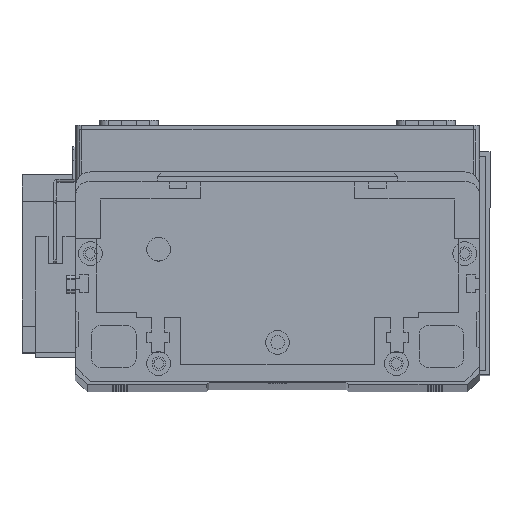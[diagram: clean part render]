
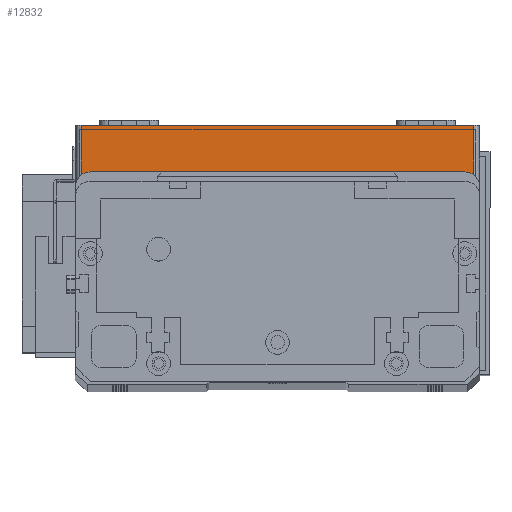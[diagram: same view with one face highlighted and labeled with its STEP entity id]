
A CAD part, top view. The second image highlights one B-rep face of the part: STEP entity #12832.
In plain terms, the highlighted planar face has unit normal (0, 0, 1) as drawn and (0, -1, 0) by its records, which use the part's own axes.
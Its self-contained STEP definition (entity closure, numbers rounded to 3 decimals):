
#98 = VERTEX_POINT ( 'NONE', #12766 ) ;
#1786 = LINE ( 'NONE', #26793, #25506 ) ;
#2894 = VECTOR ( 'NONE', #18010, 1000. ) ;
#3839 = VECTOR ( 'NONE', #8630, 1000. ) ;
#4364 = VERTEX_POINT ( 'NONE', #12758 ) ;
#4406 = EDGE_CURVE ( 'NONE', #4364, #98, #5279, .T. ) ;
#5279 = LINE ( 'NONE', #8840, #3839 ) ;
#6949 = CARTESIAN_POINT ( 'NONE',  ( 0., 0., 19.5 ) ) ;
#7287 = CARTESIAN_POINT ( 'NONE',  ( 134., 0., 19.5 ) ) ;
#8505 = AXIS2_PLACEMENT_3D ( 'NONE', #27341, #26561, #26503 ) ;
#8630 = DIRECTION ( 'NONE',  ( 0., 0., -1. ) ) ;
#8840 = CARTESIAN_POINT ( 'NONE',  ( 2., 0., 19.5 ) ) ;
#8865 = FACE_OUTER_BOUND ( 'NONE', #22061, .T. ) ;
#10323 = VERTEX_POINT ( 'NONE', #27790 ) ;
#12758 = CARTESIAN_POINT ( 'NONE',  ( 2., 0., 19.5 ) ) ;
#12766 = CARTESIAN_POINT ( 'NONE',  ( 2., 0., 0. ) ) ;
#12832 = ADVANCED_FACE ( 'NONE', ( #8865 ), #26653, .F. ) ;
#14177 = VERTEX_POINT ( 'NONE', #7287 ) ;
#15116 = LINE ( 'NONE', #20227, #2894 ) ;
#18010 = DIRECTION ( 'NONE',  ( 1., 0., 0. ) ) ;
#19329 = EDGE_CURVE ( 'NONE', #4364, #14177, #24091, .T. ) ;
#19418 = ORIENTED_EDGE ( 'NONE', *, *, #19329, .F. ) ;
#20227 = CARTESIAN_POINT ( 'NONE',  ( 0., 0., 0. ) ) ;
#20704 = EDGE_CURVE ( 'NONE', #98, #10323, #15116, .T. ) ;
#21126 = ORIENTED_EDGE ( 'NONE', *, *, #4406, .T. ) ;
#21825 = ORIENTED_EDGE ( 'NONE', *, *, #20704, .T. ) ;
#22061 = EDGE_LOOP ( 'NONE', ( #19418, #21126, #21825, #23558 ) ) ;
#23399 = VECTOR ( 'NONE', #25338, 1000. ) ;
#23558 = ORIENTED_EDGE ( 'NONE', *, *, #26509, .T. ) ;
#24091 = LINE ( 'NONE', #6949, #23399 ) ;
#25338 = DIRECTION ( 'NONE',  ( 1., 0., 0. ) ) ;
#25506 = VECTOR ( 'NONE', #29001, 1000. ) ;
#26503 = DIRECTION ( 'NONE',  ( 0., 0., 1. ) ) ;
#26509 = EDGE_CURVE ( 'NONE', #10323, #14177, #1786, .T. ) ;
#26561 = DIRECTION ( 'NONE',  ( 0., 1., 0. ) ) ;
#26653 = PLANE ( 'NONE',  #8505 ) ;
#26793 = CARTESIAN_POINT ( 'NONE',  ( 134., 0., 19.5 ) ) ;
#27341 = CARTESIAN_POINT ( 'NONE',  ( 0., 0., 19.5 ) ) ;
#27790 = CARTESIAN_POINT ( 'NONE',  ( 134., 0., 0. ) ) ;
#29001 = DIRECTION ( 'NONE',  ( 0., 0., 1. ) ) ;
